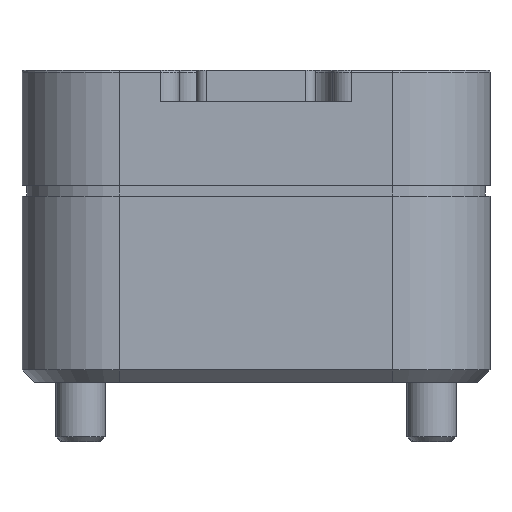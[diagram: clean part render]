
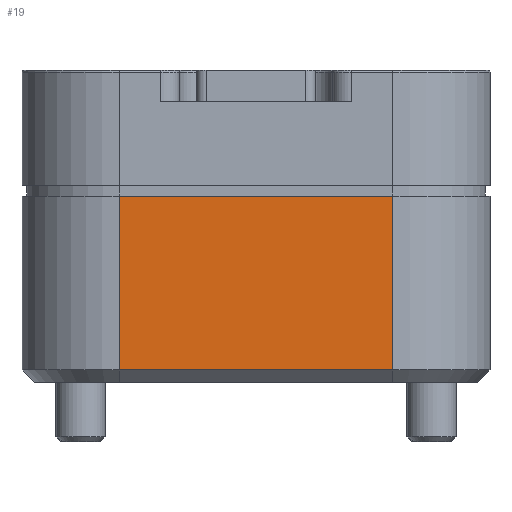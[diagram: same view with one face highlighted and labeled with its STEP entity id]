
A CAD part, front view. The second image highlights one B-rep face of the part: STEP entity #19.
In plain terms, the highlighted planar face has unit normal (0, -1, 0).
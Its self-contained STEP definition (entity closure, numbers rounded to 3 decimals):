
#19 = ADVANCED_FACE ( 'NONE', ( #1833 ), #5388, .T. ) ;
#305 = EDGE_LOOP ( 'NONE', ( #886, #887, #888, #889 ) ) ;
#397 = VERTEX_POINT ( 'NONE', #2785 ) ;
#400 = VERTEX_POINT ( 'NONE', #2788 ) ;
#401 = VERTEX_POINT ( 'NONE', #2789 ) ;
#599 = EDGE_CURVE ( 'NONE', #401, #397, #2505, .T. ) ;
#886 = ORIENTED_EDGE ( 'NONE', *, *, #4760, .F. ) ;
#887 = ORIENTED_EDGE ( 'NONE', *, *, #5470, .T. ) ;
#888 = ORIENTED_EDGE ( 'NONE', *, *, #5468, .T. ) ;
#889 = ORIENTED_EDGE ( 'NONE', *, *, #599, .F. ) ;
#1833 = FACE_OUTER_BOUND ( 'NONE', #305, .T. ) ;
#2028 = AXIS2_PLACEMENT_3D ( 'NONE', #5395, #5385, #5384 ) ;
#2492 = VECTOR ( 'NONE', #2874, 1000. ) ;
#2505 = LINE ( 'NONE', #2875, #2492 ) ;
#2785 = CARTESIAN_POINT ( 'NONE',  ( 11.125, -47.625, -10.236 ) ) ;
#2788 = CARTESIAN_POINT ( 'NONE',  ( -11.125, -47.625, -24.384 ) ) ;
#2789 = CARTESIAN_POINT ( 'NONE',  ( -11.125, -47.625, -10.236 ) ) ;
#2874 = DIRECTION ( 'NONE',  ( 1., 0., 0. ) ) ;
#2875 = CARTESIAN_POINT ( 'NONE',  ( -7.747, -47.625, -10.236 ) ) ;
#4548 = CARTESIAN_POINT ( 'NONE',  ( 11.125, -47.625, -24.384 ) ) ;
#4620 = CARTESIAN_POINT ( 'NONE',  ( 11.125, -47.625, -25.4 ) ) ;
#4622 = DIRECTION ( 'NONE',  ( 0., 0., 1. ) ) ;
#4623 = CARTESIAN_POINT ( 'NONE',  ( -11.125, -47.625, -25.4 ) ) ;
#4624 = DIRECTION ( 'NONE',  ( 0., 0., 1. ) ) ;
#4633 = CARTESIAN_POINT ( 'NONE',  ( -11.125, -47.625, -24.384 ) ) ;
#4634 = DIRECTION ( 'NONE',  ( 1., 0., 0. ) ) ;
#4760 = EDGE_CURVE ( 'NONE', #400, #401, #5021, .T. ) ;
#5015 = LINE ( 'NONE', #4620, #5018 ) ;
#5018 = VECTOR ( 'NONE', #4622, 1000. ) ;
#5021 = LINE ( 'NONE', #4623, #5023 ) ;
#5022 = LINE ( 'NONE', #4633, #5024 ) ;
#5023 = VECTOR ( 'NONE', #4624, 1000. ) ;
#5024 = VECTOR ( 'NONE', #4634, 1000. ) ;
#5234 = VERTEX_POINT ( 'NONE', #4548 ) ;
#5384 = DIRECTION ( 'NONE',  ( 0., 0., -1. ) ) ;
#5385 = DIRECTION ( 'NONE',  ( 0., -1., 0. ) ) ;
#5388 = PLANE ( 'NONE',  #2028 ) ;
#5395 = CARTESIAN_POINT ( 'NONE',  ( -11.125, -47.625, -25.4 ) ) ;
#5468 = EDGE_CURVE ( 'NONE', #5234, #397, #5015, .T. ) ;
#5470 = EDGE_CURVE ( 'NONE', #400, #5234, #5022, .T. ) ;
